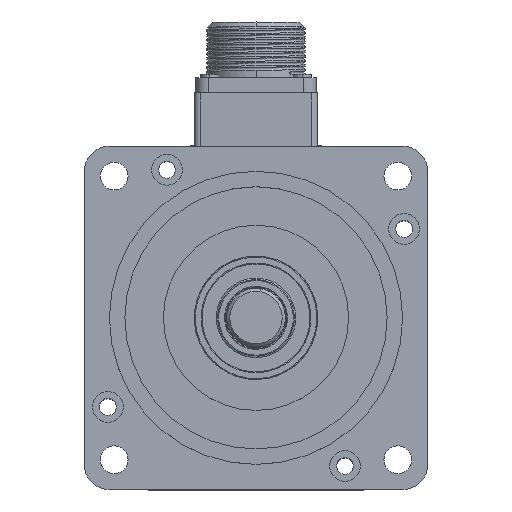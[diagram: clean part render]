
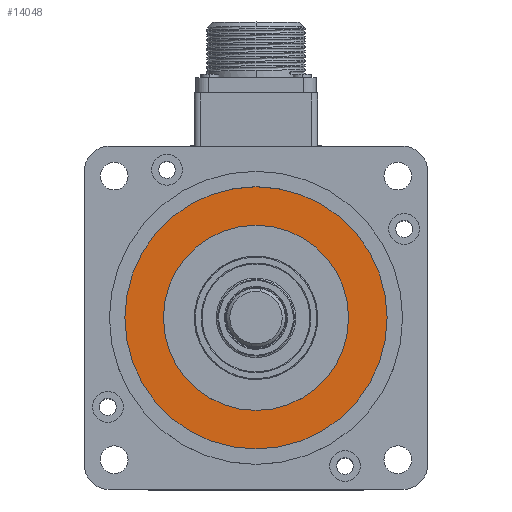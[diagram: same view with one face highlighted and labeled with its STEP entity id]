
A CAD part, top view. The second image highlights one B-rep face of the part: STEP entity #14048.
In plain terms, the highlighted planar face has unit normal (0, 0, 1).
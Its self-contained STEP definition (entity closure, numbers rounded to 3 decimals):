
#215 = DIRECTION ( 'NONE',  ( 0., 0., -1. ) ) ;
#403 = FACE_BOUND ( 'NONE', #7766, .T. ) ;
#1217 = CARTESIAN_POINT ( 'NONE',  ( -42.5, 0., 54.5 ) ) ;
#1928 = DIRECTION ( 'NONE',  ( 0., 0., -1. ) ) ;
#2586 = EDGE_CURVE ( 'NONE', #4903, #3363, #23622, .T. ) ;
#3363 = VERTEX_POINT ( 'NONE', #20964 ) ;
#4890 = FACE_OUTER_BOUND ( 'NONE', #13243, .T. ) ;
#4903 = VERTEX_POINT ( 'NONE', #13764 ) ;
#5153 = AXIS2_PLACEMENT_3D ( 'NONE', #16058, #18016, #6384 ) ;
#5587 = DIRECTION ( 'NONE',  ( 0., 0., -1. ) ) ;
#5822 = AXIS2_PLACEMENT_3D ( 'NONE', #13518, #1928, #15476 ) ;
#6384 = DIRECTION ( 'NONE',  ( -1., 0., 0. ) ) ;
#6921 = VERTEX_POINT ( 'NONE', #1217 ) ;
#7766 = EDGE_LOOP ( 'NONE', ( #13363, #9106 ) ) ;
#8036 = EDGE_CURVE ( 'NONE', #17699, #6921, #18374, .T. ) ;
#8285 = CIRCLE ( 'NONE', #11724, 42.5 ) ;
#8693 = EDGE_CURVE ( 'NONE', #3363, #4903, #20181, .T. ) ;
#9071 = CARTESIAN_POINT ( 'NONE',  ( 0., 0., 54.5 ) ) ;
#9106 = ORIENTED_EDGE ( 'NONE', *, *, #2586, .T. ) ;
#10537 = EDGE_CURVE ( 'NONE', #6921, #17699, #8285, .T. ) ;
#11019 = DIRECTION ( 'NONE',  ( -1., 0., 0. ) ) ;
#11724 = AXIS2_PLACEMENT_3D ( 'NONE', #11807, #215, #13755 ) ;
#11807 = CARTESIAN_POINT ( 'NONE',  ( 0., 0., 54.5 ) ) ;
#13243 = EDGE_LOOP ( 'NONE', ( #15432, #16200 ) ) ;
#13363 = ORIENTED_EDGE ( 'NONE', *, *, #8693, .T. ) ;
#13518 = CARTESIAN_POINT ( 'NONE',  ( 0., 0., 54.5 ) ) ;
#13755 = DIRECTION ( 'NONE',  ( -1., 0., 0. ) ) ;
#13764 = CARTESIAN_POINT ( 'NONE',  ( 30., 0., 54.5 ) ) ;
#14048 = ADVANCED_FACE ( 'NONE', ( #4890, #403 ), #14113, .F. ) ;
#14113 = PLANE ( 'NONE',  #5153 ) ;
#15432 = ORIENTED_EDGE ( 'NONE', *, *, #10537, .F. ) ;
#15476 = DIRECTION ( 'NONE',  ( -1., 0., 0. ) ) ;
#16047 = AXIS2_PLACEMENT_3D ( 'NONE', #17197, #5587, #19156 ) ;
#16058 = CARTESIAN_POINT ( 'NONE',  ( 0., 30., 54.5 ) ) ;
#16200 = ORIENTED_EDGE ( 'NONE', *, *, #8036, .F. ) ;
#17197 = CARTESIAN_POINT ( 'NONE',  ( 0., 0., 54.5 ) ) ;
#17699 = VERTEX_POINT ( 'NONE', #20292 ) ;
#18016 = DIRECTION ( 'NONE',  ( 0., 0., -1. ) ) ;
#18374 = CIRCLE ( 'NONE', #20084, 42.5 ) ;
#19156 = DIRECTION ( 'NONE',  ( -1., 0., 0. ) ) ;
#20084 = AXIS2_PLACEMENT_3D ( 'NONE', #9071, #22662, #11019 ) ;
#20181 = CIRCLE ( 'NONE', #16047, 30. ) ;
#20292 = CARTESIAN_POINT ( 'NONE',  ( 42.5, 0., 54.5 ) ) ;
#20964 = CARTESIAN_POINT ( 'NONE',  ( -30., 0., 54.5 ) ) ;
#22662 = DIRECTION ( 'NONE',  ( 0., 0., -1. ) ) ;
#23622 = CIRCLE ( 'NONE', #5822, 30. ) ;
